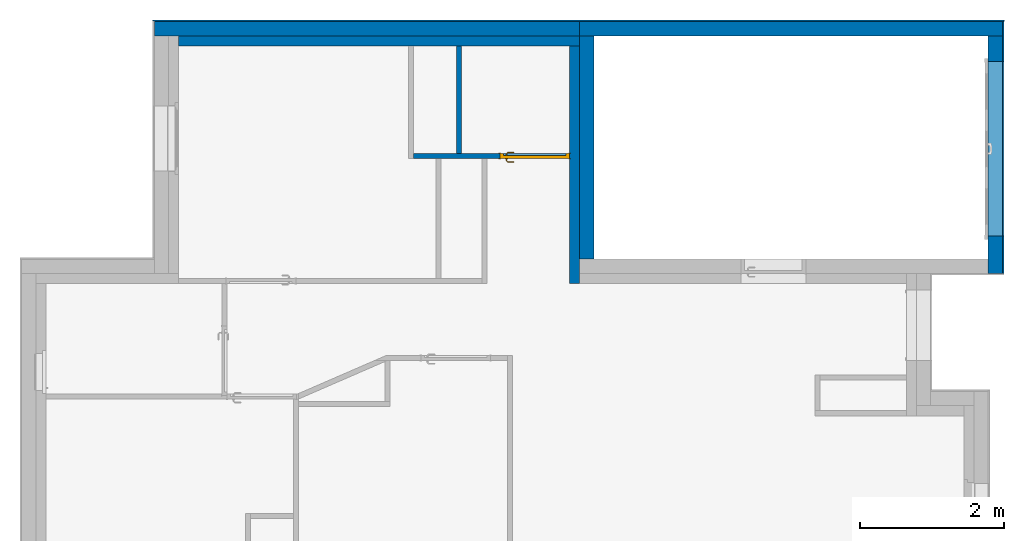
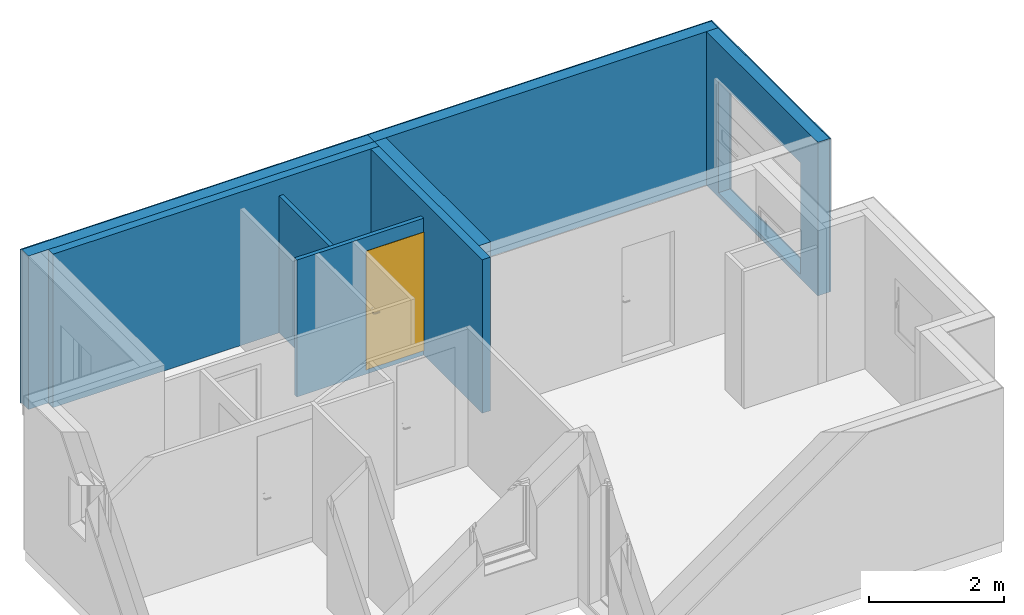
"""IFC2X3 building model written with IfcOpenShell, lengths in centimetres."""

from ifc_helpers import new_model, entity, si_unit, converted_unit, derived_unit, direction, frame, frame_2d, origin, place, context, subcontext, project, spatial, rectangle, extrude, faceted_brep, source, transform, mapped, material, material_list, layer, layer_set, layer_usage, type_object, type_shapes, element, fill, save


model = new_model("IFC2X3")

# Units and contexts
model_context = context("Model", 3, precision=0.001, world=origin(), true_north=direction((6.123031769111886e-17, 1.0)))
body_context = subcontext(model_context, "Body", "Model", "MODEL_VIEW")
ifc_project = project(units=[si_unit("LENGTHUNIT", "METRE", prefix="CENTI"), si_unit("AREAUNIT", "SQUARE_METRE"), si_unit("VOLUMEUNIT", "CUBIC_METRE"), converted_unit("PLANEANGLEUNIT", "DEGREE", entity("IfcRatioMeasure", 0.017453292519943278), si_unit("PLANEANGLEUNIT", "RADIAN"), dimensions=[0, 0, 0, 0, 0, 0, 0]), si_unit("MASSUNIT", "GRAM", prefix="KILO"), derived_unit("MASSDENSITYUNIT", [(si_unit("MASSUNIT", "GRAM", prefix="KILO"), 1), (si_unit("LENGTHUNIT", "METRE"), -3)]), derived_unit("MOMENTOFINERTIAUNIT", [(si_unit("LENGTHUNIT", "METRE"), 4)]), si_unit("TIMEUNIT", "SECOND"), si_unit("FREQUENCYUNIT", "HERTZ"), si_unit("THERMODYNAMICTEMPERATUREUNIT", "DEGREE_CELSIUS"), derived_unit("THERMALTRANSMITTANCEUNIT", [(si_unit("MASSUNIT", "GRAM", prefix="KILO"), 1), (si_unit("THERMODYNAMICTEMPERATUREUNIT", "KELVIN"), -1), (si_unit("TIMEUNIT", "SECOND"), -3)]), derived_unit("VOLUMETRICFLOWRATEUNIT", [(si_unit("LENGTHUNIT", "METRE"), 3), (si_unit("TIMEUNIT", "SECOND"), -1)]), derived_unit("MASSFLOWRATEUNIT", [(si_unit("MASSUNIT", "GRAM", prefix="KILO"), 1), (si_unit("TIMEUNIT", "SECOND"), -1)]), derived_unit("ROTATIONALFREQUENCYUNIT", [(si_unit("TIMEUNIT", "SECOND"), -1)]), si_unit("ELECTRICCURRENTUNIT", "AMPERE"), si_unit("ELECTRICVOLTAGEUNIT", "VOLT"), si_unit("POWERUNIT", "WATT"), si_unit("FORCEUNIT", "NEWTON", prefix="KILO"), si_unit("ILLUMINANCEUNIT", "LUX"), si_unit("LUMINOUSFLUXUNIT", "LUMEN"), si_unit("LUMINOUSINTENSITYUNIT", "CANDELA"), derived_unit("USERDEFINED", [(si_unit("MASSUNIT", "GRAM", prefix="KILO"), -1), (si_unit("LENGTHUNIT", "METRE"), -2), (si_unit("TIMEUNIT", "SECOND"), 3), (si_unit("LUMINOUSFLUXUNIT", "LUMEN"), 1)]), derived_unit("SOUNDPOWERUNIT", [(si_unit("MASSUNIT", "GRAM", prefix="KILO"), 1), (si_unit("LENGTHUNIT", "METRE"), 2), (si_unit("TIMEUNIT", "SECOND"), -3)]), derived_unit("SOUNDPRESSUREUNIT", [(si_unit("MASSUNIT", "GRAM", prefix="KILO"), 1), (si_unit("LENGTHUNIT", "METRE"), -1), (si_unit("TIMEUNIT", "SECOND"), -2)]), derived_unit("LINEARVELOCITYUNIT", [(si_unit("LENGTHUNIT", "METRE"), 1), (si_unit("TIMEUNIT", "SECOND"), -1)]), si_unit("PRESSUREUNIT", "PASCAL"), derived_unit("USERDEFINED", [(si_unit("LENGTHUNIT", "METRE"), -2), (si_unit("MASSUNIT", "GRAM", prefix="KILO"), 1), (si_unit("TIMEUNIT", "SECOND"), -2)]), derived_unit("LINEARFORCEUNIT", [(si_unit("MASSUNIT", "GRAM", prefix="KILO"), 1), (si_unit("LENGTHUNIT", "METRE"), 1), (si_unit("TIMEUNIT", "SECOND"), -2), (si_unit("LENGTHUNIT", "METRE"), -1)]), derived_unit("PLANARFORCEUNIT", [(si_unit("MASSUNIT", "GRAM", prefix="KILO"), 1), (si_unit("LENGTHUNIT", "METRE"), 1), (si_unit("TIMEUNIT", "SECOND"), -2), (si_unit("LENGTHUNIT", "METRE"), -2)])], contexts=[model_context])

# Site, building, storey
site_placement = place(None, origin())
site = spatial("IfcSite", under=ifc_project, at=site_placement, Name="Default", CompositionType="ELEMENT")
building_placement = place(site_placement, origin())
building = spatial("IfcBuilding", under=site, at=building_placement, CompositionType="ELEMENT")
storey_1_placement = place(building_placement, frame((0.0, 0.0, -8.0)))
storey_1 = spatial("IfcBuildingStorey", under=building, at=storey_1_placement, Name="-0.08_Dessus plancher", CompositionType="ELEMENT", Elevation=-8.000000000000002)

# Wall
ifc_material_1 = material(Name="Maçonnerie - Béton")
ifc_layer_1 = layer(ifc_material_1, 20.0)
ifc_layer_set_1 = layer_set([ifc_layer_1], Name="Mur de base:Mur 20")
ifc_layer_usage_1 = layer_usage(ifc_layer_set_1, "AXIS2", "POSITIVE", -10.0)
wall_type_1 = type_object("IfcWallType", Name="Mur de base:Mur 20", PredefinedType="STANDARD", material=ifc_layer_set_1)
wall_1_placement = place(storey_1_placement, frame((-265.82536305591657, 921.6042960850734, 0.0), z_axis=(0.0, 0.0, 1.0), x_axis=(-1.0, 0.0, 0.0)))
element("IfcWallStandardCase", 1, at=wall_1_placement, inside=storey_1, type_object=wall_type_1, material=ifc_layer_usage_1, Name="Mur de base:Mur 20", ObjectType="Mur de base:Mur 20", context=body_context, shape_type="SweptSolid", body=[
    extrude(rectangle(XDim=588.9999999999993, YDim=20.0, at=frame_2d((294.49999999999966, -1.509903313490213e-14), x_axis=(-1.0, 0.0))), origin(), (0.0, 0.0, 1.0), 278.00000000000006),
])

# Wall, opening
ifc_layer_usage_2 = layer_usage(ifc_layer_set_1, "AXIS2", "NEGATIVE", 10.0)
wall_2_placement = place(storey_1_placement, frame((-275.8253630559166, 911.6042960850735, 0.0), z_axis=(0.0, 0.0, 1.0), x_axis=(0.0, -1.0, 0.0)))
wall_2 = element("IfcWallStandardCase", 2, at=wall_2_placement, inside=storey_1, type_object=wall_type_1, material=ifc_layer_usage_2, Name="Mur de base:Mur 20", ObjectType="Mur de base:Mur 20", context=body_context, shape_type="SweptSolid", body=[
    extrude(rectangle(XDim=331.0000000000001, YDim=20.0, at=frame_2d((165.5000000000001, 0.0), x_axis=(-1.0, 0.0))), origin(), (0.0, 0.0, 1.0), 278.00000000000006),
])
opening_1_placement = place(wall_2_placement, frame((911.6042960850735, 275.8253630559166, 8.0), z_axis=(0.0, 0.0, 1.0), x_axis=(0.0, 1.0, 0.0)))
element("IfcOpeningElement", 3, at=opening_1_placement, cuts=wall_2, Name="Mur de base:Mur 20", ObjectType="Opening", context=body_context, shape_type="SweptSolid", body=[
    extrude(rectangle(XDim=201.5000000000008, YDim=242.9999999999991, at=frame_2d((-1.0658141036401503e-13, 0.0), x_axis=(0.0, 1.0))), frame((-315.8253630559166, 754.1042960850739, 100.7500000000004), z_axis=(1.0, 0.0, 0.0), x_axis=(0.0, -1.0, 0.0)), (0.0, 0.0, 1.0), 80.00000000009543),
])

ifc_layer_usage_3 = layer_usage(ifc_layer_set_1, "AXIS2", "POSITIVE", -10.0)
wall_3_placement = place(storey_1_placement, frame((-844.8253630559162, 600.6042960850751, 0.0), z_axis=(0.0, 0.0, 1.0), x_axis=(0.0, 1.0, 0.0)))
wall_3 = element("IfcWallStandardCase", 4, at=wall_3_placement, inside=storey_1, type_object=wall_type_1, material=ifc_layer_usage_3, Name="Mur de base:Mur 20", ObjectType="Mur de base:Mur 20", context=body_context, shape_type="SweptSolid", body=[
    extrude(rectangle(XDim=311.0000000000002, YDim=20.0, at=frame_2d((155.50000000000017, -1.9539925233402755e-14), x_axis=(-1.0, 0.0))), origin(), (0.0, 0.0, 1.0), 278.00000000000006),
])
opening_2_placement = place(wall_3_placement, origin())
element("IfcOpeningElement", 5, at=opening_2_placement, cuts=wall_3, Name="Mur de base:Mur 20", ObjectType="Opening", context=body_context, shape_type="SweptSolid", body=[
    extrude(rectangle(XDim=213.50000000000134, YDim=7.000000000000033, at=frame_2d((5.417888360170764e-14, 1.4210854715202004e-14), x_axis=(0.0, 1.0))), frame((143.5000000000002, 24.0, 114.74999999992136), z_axis=(0.0, 1.0, 0.0), x_axis=(1.0, 0.0, 0.0)), (0.0, 0.0, 1.0), 96.9999999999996),
])

# Walls
ifc_layer_usage_4 = layer_usage(ifc_layer_set_1, "AXIS2", "POSITIVE", -10.0)
wall_4_placement = place(storey_1_placement, frame((-854.8253630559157, 921.6042960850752, 0.0), z_axis=(0.0, 0.0, 1.0), x_axis=(-1.0, 0.0, 0.0)))
element("IfcWallStandardCase", 6, at=wall_4_placement, inside=storey_1, type_object=wall_type_1, material=ifc_layer_usage_4, Name="Mur de base:Mur 20", ObjectType="Mur de base:Mur 20", context=body_context, shape_type="SweptSolid", body=[
    extrude(rectangle(XDim=592.0000000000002, YDim=20.0, at=frame_2d((296.00000000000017, -2.930988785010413e-14), x_axis=(-1.0, 0.0))), origin(), (0.0, 0.0, 1.0), 278.00000000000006),
])
ifc_material_2 = material(Name="Maçonnerie - Enduit")
ifc_layer_2 = layer(ifc_material_2, 2.0)
ifc_layer_set_2 = layer_set([ifc_layer_2], Name="Mur de base:Enduit 2")
ifc_layer_usage_5 = layer_usage(ifc_layer_set_2, "AXIS2", "POSITIVE", -1.0)
wall_type_2 = type_object("IfcWallType", Name="Mur de base:Enduit 2", PredefinedType="STANDARD", material=ifc_layer_set_2)
wall_5_placement = place(storey_1_placement, frame((-263.82536305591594, 932.6042960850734, 0.0), z_axis=(0.0, 0.0, 1.0), x_axis=(-1.0, 0.0, 0.0)))
element("IfcWallStandardCase", 7, at=wall_5_placement, inside=storey_1, type_object=wall_type_2, material=ifc_layer_usage_5, Name="Mur de base:Enduit 2", ObjectType="Mur de base:Enduit 2", context=body_context, shape_type="SweptSolid", body=[
    extrude(rectangle(XDim=1184.9999999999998, YDim=1.9999999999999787, at=frame_2d((592.4999999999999, 6.494804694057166e-15), x_axis=(-1.0, 0.0))), origin(), (0.0, 0.0, 1.0), 278.00000000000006),
])

# Wall, opening
ifc_layer_usage_6 = layer_usage(ifc_layer_set_2, "AXIS2", "POSITIVE", -1.0)
wall_6_placement = place(storey_1_placement, frame((-264.82536305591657, 580.6042960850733, 0.0), z_axis=(0.0, 0.0, 1.0), x_axis=(0.0, 1.0, 0.0)))
wall_6 = element("IfcWallStandardCase", 8, at=wall_6_placement, inside=storey_1, type_object=wall_type_2, material=ifc_layer_usage_6, Name="Mur de base:Enduit 2", ObjectType="Mur de base:Enduit 2", context=body_context, shape_type="SweptSolid", body=[
    extrude(rectangle(XDim=351.0000000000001, YDim=1.9999999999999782, at=frame_2d((175.50000000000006, -1.6653345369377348e-15), x_axis=(-1.0, 0.0))), origin(), (0.0, 0.0, 1.0), 278.00000000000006),
])
opening_3_placement = place(wall_6_placement, origin())
element("IfcOpeningElement", 9, at=opening_3_placement, cuts=wall_6, Name="Mur de base:Enduit 2", ObjectType="Opening", context=body_context, shape_type="SweptSolid", body=[
    extrude(rectangle(XDim=201.5000000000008, YDim=242.99999999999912, at=frame_2d((0.0, 0.0), x_axis=(0.0, 1.0))), frame((173.50000000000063, -29.0, 108.74999999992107), z_axis=(0.0, 1.0, 0.0), x_axis=(1.0, 0.0, 0.0)), (0.0, 0.0, 1.0), 80.0000000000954),
])

# Wall
ifc_material_3 = material(Name="Isolant rigide")
ifc_layer_3 = layer(ifc_material_3, 14.0)
ifc_layer_set_3 = layer_set([ifc_layer_3], Name="Mur de base:Doublage 14")
ifc_layer_usage_7 = layer_usage(ifc_layer_set_3, "AXIS2", "NEGATIVE", 7.0)
wall_type_3 = type_object("IfcWallType", Name="Mur de base:Doublage 14", PredefinedType="STANDARD", material=ifc_layer_set_3)
wall_7_placement = place(storey_1_placement, frame((-1412.825363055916, 904.6042960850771, 0.0)))
element("IfcWallStandardCase", 10, at=wall_7_placement, inside=storey_1, type_object=wall_type_3, material=ifc_layer_usage_7, Name="Mur de base:Doublage 14", ObjectType="Mur de base:Doublage 14", context=body_context, shape_type="SweptSolid", body=[
    extrude(rectangle(XDim=558.0000000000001, YDim=14.000000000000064, at=frame_2d((279.00000000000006, -2.2648549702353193e-14), x_axis=(-1.0, 0.0))), origin(), (0.0, 0.0, 1.0), 278.00000000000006),
])

# Wall, opening
ifc_layer_usage_8 = layer_usage(ifc_layer_set_3, "AXIS2", "NEGATIVE", 7.0)
wall_8_placement = place(storey_1_placement, frame((-861.8253630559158, 897.6042960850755, 0.0), z_axis=(0.0, 0.0, 1.0), x_axis=(0.0, -1.0, 0.0)))
wall_8 = element("IfcWallStandardCase", 11, at=wall_8_placement, inside=storey_1, type_object=wall_type_3, material=ifc_layer_usage_8, Name="Mur de base:Doublage 14", ObjectType="Mur de base:Doublage 14", context=body_context, shape_type="SweptSolid", body=[
    extrude(rectangle(XDim=331.0000000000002, YDim=13.999999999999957, at=frame_2d((165.50000000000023, 5.417888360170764e-14), x_axis=(-1.0, 0.0))), origin(), (0.0, 0.0, 1.0), 278.00000000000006),
])
opening_4_placement = place(wall_8_placement, origin())
element("IfcOpeningElement", 12, at=opening_4_placement, cuts=wall_8, Name="Mur de base:Doublage 14", ObjectType="Opening", context=body_context, shape_type="SweptSolid", body=[
    extrude(rectangle(XDim=213.50000000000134, YDim=7.000000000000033, at=frame_2d((5.417888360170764e-14, 0.0), x_axis=(0.0, 1.0))), frame((153.5000000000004, -104.0, 114.74999999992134), z_axis=(0.0, 1.0, 0.0), x_axis=(-1.0, 0.0, 0.0)), (0.0, 0.0, 1.0), 96.9999999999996),
])

ifc_material_4 = material(Name="Mur par défaut")
ifc_layer_4 = layer(ifc_material_4, 7.0)
ifc_layer_set_4 = layer_set([ifc_layer_4], Name="Mur de base:Cloison 7cm")
ifc_layer_usage_9 = layer_usage(ifc_layer_set_4, "AXIS2", "NEGATIVE", 3.4999999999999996)
wall_type_4 = type_object("IfcWallType", Name="Mur de base:Cloison 7cm", PredefinedType="STANDARD", material=ifc_layer_set_4)
wall_9_placement = place(storey_1_placement, frame((-1085.825363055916, 744.1042960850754, 0.0)))
wall_9 = element("IfcWallStandardCase", 13, at=wall_9_placement, inside=storey_1, type_object=wall_type_4, material=ifc_layer_usage_9, Name="Mur de base:Cloison 7cm", ObjectType="Mur de base:Cloison 7cm", context=body_context, shape_type="SweptSolid", body=[
    extrude(rectangle(XDim=217.00000000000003, YDim=7.000000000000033, at=frame_2d((108.50000000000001, -5.417888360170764e-14), x_axis=(-1.0, 0.0))), origin(), (0.0, 0.0, 1.0), 248.00000000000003),
])
opening_5_placement = place(wall_9_placement, frame((217.0, 3.4999999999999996, 8.0)))
opening_5 = element("IfcOpeningElement", 14, at=opening_5_placement, cuts=wall_9, Name="Int. Simple:PP (0.90m x 2.10m):1", ObjectType="Opening", context=body_context, shape_type="SweptSolid", body=[
    extrude(rectangle(XDim=213.50000000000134, YDim=96.99999999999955, at=frame_2d((106.75000000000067, 48.49999999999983), x_axis=(1.0, 0.0))), frame((0.0, 0.0, 0.0), z_axis=(0.0, -1.0, 0.0), x_axis=(0.0, 0.0, 1.0)), (0.0, 0.0, 1.0), 6.999999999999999),
])

# Storey
storey_2_placement = place(building_placement, origin())
storey_2 = spatial("IfcBuildingStorey", under=building, at=storey_2_placement, Name="1_Rez-de-chaussée", CompositionType="ELEMENT", Elevation=-7.93413063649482e-11)

# Door
ifc_material_5 = material(Name="Finition Peinture - Blanc satiné")
ifc_material_6 = material(Name="Bois - Panneau de porte")
ifc_material_7 = material(Name="Bois - Cadre de porte")
ifc_material_list_1 = material_list([ifc_material_5, ifc_material_5, ifc_material_5, ifc_material_5, ifc_material_6, ifc_material_7, ifc_material_7, ifc_material_7])
ifc_material_list_2 = material_list([ifc_material_5, ifc_material_5, ifc_material_5, ifc_material_5, ifc_material_6, ifc_material_7, ifc_material_7, ifc_material_7])
door_style = type_object("IfcDoorStyle", Name="Int. Simple:PP (0.90m x 2.10m)", ConstructionType="NOTDEFINED", OperationType="NOTDEFINED", ParameterTakesPrecedence=False, Sizeable=False, material=ifc_material_list_2)
shared_shape = source(origin(), body_context, "Body", "Brep", [
    faceted_brep([(10.53527618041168, -0.5000000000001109, 86.6003983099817), (11.500000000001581, -0.5000000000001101, 87.0), (11.50000000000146, -0.5000000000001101, 108.0), (10.535276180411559, -0.5000000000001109, 108.39960169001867), (9.500000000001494, -0.5000000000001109, 108.5358983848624), (8.464723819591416, -0.5000000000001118, 108.39960169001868), (7.500000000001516, -0.5000000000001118, 108.0), (7.500000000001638, -0.5000000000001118, 87.0), (8.464723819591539, -0.5000000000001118, 86.6003983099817), (9.50000000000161, -0.5000000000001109, 86.46410161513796), (10.535276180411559, 0.0, 108.39960169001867), (11.500000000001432, 0.0, 108.0), (11.500000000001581, 0.0, 87.0), (10.53527618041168, 0.0, 86.6003983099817), (9.50000000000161, 0.0, 86.46410161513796), (8.464723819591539, 0.0, 86.6003983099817), (7.5000000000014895, 0.0, 87.0), (7.500000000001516, 0.0, 108.0), (8.464723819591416, 0.0, 108.39960169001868), (9.500000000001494, 0.0, 108.5358983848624)], [[[0, 1, 2, 3, 4, 5, 6, 7, 8, 9]], [[10, 11, 12, 13, 14, 15, 16, 17, 18, 19]], [[16, 15, 8, 7]], [[8, 15, 14, 9]], [[14, 13, 0, 9]], [[13, 12, 1, 0]], [[2, 1, 12, 11]], [[11, 10, 3, 2]], [[3, 10, 19, 4]], [[19, 18, 5, 4]], [[18, 17, 6, 5]], [[7, 6, 17, 16]]]),
    faceted_brep([(10.535276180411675, 4.0, 86.6003983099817), (11.500000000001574, 4.0, 87.0), (11.500000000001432, 4.0, 108.0), (10.535276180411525, 4.0, 108.39960169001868), (9.50000000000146, 4.0, 108.5358983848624), (8.464723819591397, 4.0, 108.39960169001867), (7.5000000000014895, 4.0, 108.0), (7.500000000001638, 4.0, 87.0), (8.464723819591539, 4.0, 86.60039830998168), (9.500000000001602, 4.0, 86.46410161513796), (10.535276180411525, 4.499999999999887, 108.39960169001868), (11.500000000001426, 4.499999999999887, 108.0), (11.500000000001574, 4.499999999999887, 87.0), (10.535276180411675, 4.499999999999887, 86.6003983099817), (9.500000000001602, 4.499999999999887, 86.46410161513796), (8.464723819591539, 4.499999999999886, 86.60039830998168), (7.500000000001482, 4.499999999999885, 87.0), (7.5000000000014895, 4.499999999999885, 108.0), (8.464723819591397, 4.499999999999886, 108.39960169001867), (9.50000000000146, 4.499999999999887, 108.5358983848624)], [[[0, 1, 2, 3, 4, 5, 6, 7, 8, 9]], [[10, 11, 12, 13, 14, 15, 16, 17, 18, 19]], [[11, 10, 3, 2]], [[3, 10, 19, 4]], [[19, 18, 5, 4]], [[18, 17, 6, 5]], [[7, 6, 17, 16]], [[16, 15, 8, 7]], [[8, 15, 14, 9]], [[14, 13, 0, 9]], [[13, 12, 1, 0]], [[2, 1, 12, 11]]]),
    faceted_brep([(9.297470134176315, -0.5000000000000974, 100.77804408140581), (9.702529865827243, -0.5000000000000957, 100.77804408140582), (10.100000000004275, -0.500000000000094, 100.6999999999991), (10.10000000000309, -0.500000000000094, 99.30000000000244), (9.702529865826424, -0.5000000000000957, 99.22195591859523), (9.297470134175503, -0.5000000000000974, 99.221955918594), (8.89999999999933, -0.500000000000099, 99.29999999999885), (8.899999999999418, -0.500000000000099, 100.69999999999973), (8.899999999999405, -3.2650950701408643, 100.69999999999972), (9.2974701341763, -3.100457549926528, 100.77804408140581), (10.90235851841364, -4.7053459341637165, 100.77804408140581), (11.07013975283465, -4.300286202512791, 100.77804408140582), (9.702529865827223, -2.9326763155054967, 100.77804408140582), (10.100000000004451, -2.7680387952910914, 100.69999999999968), (10.100000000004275, -2.7680387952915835, 99.30000000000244), (9.702529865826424, -2.932676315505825, 99.22195591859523), (11.070139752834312, -4.3002862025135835, 99.22195591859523), (10.902358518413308, -4.705345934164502, 99.221955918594), (9.297470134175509, -3.100457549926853, 99.221955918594), (8.899999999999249, -3.2650950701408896, 99.29999999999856), (10.737720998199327, -5.102816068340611, 100.69999999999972), (11.234777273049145, -3.9028160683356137, 100.69999999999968), (11.234777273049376, -3.902816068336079, 99.30000000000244), (10.737720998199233, -5.102816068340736, 99.29999999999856), (19.501864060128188, -5.102816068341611, 99.2999999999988), (19.501864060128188, -4.705345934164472, 99.22195591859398), (19.501864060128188, -4.300286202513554, 99.2219559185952), (19.501864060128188, -3.9028160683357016, 99.30000000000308), (19.501864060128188, -3.9028160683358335, 100.69999999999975), (19.501864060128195, -4.300286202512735, 100.7780440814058), (19.501864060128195, -4.7053459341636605, 100.77804408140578), (19.501864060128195, -5.102816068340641, 100.69999999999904), (14.730769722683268, -5.10281606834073, 100.69999999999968), (15.286001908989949, -4.502816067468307, 100.7878686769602), (15.368320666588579, -3.902816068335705, 100.6999999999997), (15.368320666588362, -3.902816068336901, 99.30000000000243), (15.286001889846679, -4.5028160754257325, 99.21213132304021), (14.730770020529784, -5.102816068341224, 99.2999999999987)], [[[0, 1, 2, 3, 4, 5, 6, 7]], [[8, 9, 0, 7]], [[9, 10, 11, 12, 1, 0]], [[12, 13, 2, 1]], [[3, 2, 13, 14]], [[14, 15, 4, 3]], [[15, 16, 17, 18, 5, 4]], [[18, 19, 6, 5]], [[7, 6, 19, 8]], [[20, 10, 9, 8]], [[11, 21, 13, 12]], [[14, 13, 21, 22]], [[22, 16, 15, 14]], [[17, 23, 19, 18]], [[8, 19, 23, 20]], [[24, 25, 26, 27, 28, 29, 30, 31]], [[32, 30, 33]], [[31, 30, 32]], [[10, 20, 32]], [[33, 34, 11]], [[21, 11, 34]], [[34, 29, 28]], [[30, 29, 33]], [[29, 34, 33]], [[10, 32, 33]], [[10, 33, 11]], [[22, 21, 34, 28, 27, 35]], [[35, 26, 36]], [[37, 36, 25]], [[22, 35, 16]], [[35, 27, 26]], [[24, 37, 25]], [[23, 17, 37]], [[37, 17, 36]], [[17, 16, 36]], [[16, 35, 36]], [[25, 36, 26]], [[20, 23, 37, 24, 31, 32]]]),
    faceted_brep([(9.29747013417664, 4.4999999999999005, 100.77804408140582), (8.899999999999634, 4.499999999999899, 100.69999999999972), (8.899999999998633, 4.499999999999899, 99.29999999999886), (9.297470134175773, 4.4999999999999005, 99.22195591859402), (9.702529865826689, 4.499999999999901, 99.22195591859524), (10.100000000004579, 4.499999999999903, 99.30000000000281), (10.100000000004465, 4.499999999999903, 100.69999999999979), (9.702529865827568, 4.499999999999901, 100.77804408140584), (10.100000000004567, 6.748520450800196, 99.30000000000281), (10.100000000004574, 6.748520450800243, 100.69999999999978), (9.702529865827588, 6.913157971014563, 100.77804408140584), (11.083890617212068, 8.294518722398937, 100.77804408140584), (10.916109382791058, 8.699578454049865, 100.77804408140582), (9.29747013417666, 7.080939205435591, 100.77804408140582), (8.899999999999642, 7.245576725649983, 100.69999999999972), (8.899999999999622, 7.245576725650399, 99.29999999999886), (9.297470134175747, 7.080939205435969, 99.22195591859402), (10.916109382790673, 8.699578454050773, 99.22195591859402), (11.083890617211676, 8.294518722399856, 99.22195591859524), (9.702529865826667, 6.913157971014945, 99.22195591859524), (11.248528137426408, 7.897048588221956, 99.30000000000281), (11.248528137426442, 7.897048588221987, 100.69999999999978), (10.751471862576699, 9.097048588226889, 100.69999999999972), (10.751471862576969, 9.097048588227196, 99.29999999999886), (19.504578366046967, 7.897048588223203, 99.30000000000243), (19.504578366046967, 8.294518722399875, 99.22195591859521), (19.504578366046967, 8.699578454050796, 99.22195591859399), (19.504578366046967, 9.097048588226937, 99.29999999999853), (19.504578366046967, 9.097048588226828, 100.69999999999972), (19.504578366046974, 8.699578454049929, 100.7780440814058), (19.504578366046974, 8.294518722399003, 100.77804408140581), (19.504578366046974, 7.897048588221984, 100.69999999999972), (15.376552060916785, 7.897048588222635, 99.3000000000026), (15.37655325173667, 7.897048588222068, 100.69999999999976), (15.294234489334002, 8.49704858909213, 100.78786867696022), (14.74452057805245, 9.097048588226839, 100.69999999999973), (14.744520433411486, 9.097048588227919, 99.29999999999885), (15.294234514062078, 8.497048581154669, 99.21213132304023)], [[[0, 1, 2, 3, 4, 5, 6, 7]], [[6, 5, 8, 9]], [[9, 10, 7, 6]], [[10, 11, 12, 13, 0, 7]], [[13, 14, 1, 0]], [[2, 1, 14, 15]], [[15, 16, 3, 2]], [[16, 17, 18, 19, 4, 3]], [[19, 8, 5, 4]], [[9, 8, 20, 21]], [[21, 11, 10, 9]], [[12, 22, 14, 13]], [[15, 14, 22, 23]], [[23, 17, 16, 15]], [[18, 20, 8, 19]], [[24, 25, 26, 27, 28, 29, 30, 31]], [[21, 20, 32, 24, 31, 33]], [[33, 30, 34]], [[35, 34, 29]], [[21, 33, 11]], [[33, 31, 30]], [[28, 35, 29]], [[22, 12, 35]], [[35, 12, 34]], [[12, 11, 34]], [[11, 33, 34]], [[29, 34, 30]], [[22, 35, 28, 27, 36, 23]], [[36, 26, 37]], [[27, 26, 36]], [[17, 23, 36]], [[37, 32, 18]], [[20, 18, 32]], [[32, 25, 24]], [[26, 25, 37]], [[25, 32, 37]], [[17, 36, 37]], [[17, 37, 18]]]),
    faceted_brep([(3.5000000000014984, 4.0, 210.0), (93.5000000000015, 4.0, 210.0), (93.5000000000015, 4.0, 0.0), (3.5000000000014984, 4.0, 0.0), (3.5000000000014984, 0.0, 210.0), (3.5000000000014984, 0.0, 0.0), (93.5000000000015, 0.0, 0.0), (93.5000000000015, 0.0, 210.0)], [[[0, 1, 2, 3]], [[4, 5, 6, 7]], [[1, 0, 4, 7]], [[2, 1, 7, 6]], [[3, 2, 6, 5]], [[0, 3, 5, 4]]]),
    faceted_brep([(0.0, 0.0, 0.0), (0.0, 7.0, 0.0), (5.0, 7.0, 0.0), (5.0, 4.0, 0.0), (3.4999999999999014, 4.0, 0.0), (3.4999999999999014, 0.0, 0.0), (0.0, 0.0, 213.50000000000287), (0.0, 7.0, 213.50000000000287), (97.0, 7.0, 213.50000000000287), (97.0, 7.0, 0.0), (92.0, 7.0, 0.0), (92.0, 7.0, 208.50000000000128), (5.0, 7.0, 208.50000000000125), (5.0, 4.0, 208.50000000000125), (92.0, 4.0, 208.50000000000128), (92.0, 4.0, 0.0), (93.49999999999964, 4.0, 0.0), (93.49999999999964, 4.0, 210.0), (3.4999999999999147, 4.0, 210.0), (3.4999999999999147, 0.0, 210.0), (93.49999999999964, 0.0, 210.0), (93.49999999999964, 0.0, 0.0), (97.0, 0.0, 0.0), (97.0, 0.0, 213.50000000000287)], [[[0, 1, 2, 3, 4, 5]], [[1, 0, 6, 7]], [[2, 1, 7, 8, 9, 10, 11, 12]], [[3, 2, 12, 13]], [[4, 3, 13, 14, 15, 16, 17, 18]], [[5, 4, 18, 19]], [[0, 5, 19, 20, 21, 22, 23, 6]], [[8, 23, 22, 9]], [[22, 21, 16, 15, 10, 9]], [[14, 11, 10, 15]], [[20, 17, 16, 21]], [[7, 6, 23, 8]], [[13, 12, 11, 14]], [[19, 18, 17, 20]]]),
    faceted_brep([(1.4999999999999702, 7.0, 0.0), (-1.4999999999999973, 7.0, 0.0), (-1.4999999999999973, 7.499999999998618, 0.0), (1.4999999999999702, 7.499999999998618, 0.0), (1.4999999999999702, 7.0, 212.0), (95.49999999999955, 7.0, 212.0), (95.49999999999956, 7.0, 0.0), (98.49999999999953, 7.0, 0.0), (98.49999999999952, 7.0, 215.0), (-1.4999999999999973, 7.0, 215.0), (-1.4999999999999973, 7.499999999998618, 215.0), (98.49999999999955, 7.499999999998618, 215.0), (98.49999999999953, 7.499999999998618, 0.0), (95.49999999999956, 7.499999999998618, 0.0), (95.49999999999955, 7.499999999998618, 212.0), (1.4999999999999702, 7.499999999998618, 212.0)], [[[0, 1, 2, 3]], [[1, 0, 4, 5, 6, 7, 8, 9]], [[2, 1, 9, 10]], [[3, 2, 10, 11, 12, 13, 14, 15]], [[0, 3, 15, 4]], [[6, 13, 12, 7]], [[5, 14, 13, 6]], [[11, 8, 7, 12]], [[10, 9, 8, 11]], [[4, 15, 14, 5]]]),
    faceted_brep([(-1.4999999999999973, -0.4999999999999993, 0.0), (1.4999999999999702, -0.4999999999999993, 0.0), (1.4999999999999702, -0.4999999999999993, 212.0), (95.49999999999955, -0.4999999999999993, 212.0), (95.49999999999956, -0.4999999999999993, 0.0), (98.49999999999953, -0.4999999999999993, 0.0), (98.49999999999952, -0.4999999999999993, 215.0), (-1.4999999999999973, -0.4999999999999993, 215.0), (-1.4999999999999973, 0.0, 0.0), (-1.4999999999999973, 0.0, 215.0), (1.4999999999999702, 0.0, 0.0), (98.49999999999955, 0.0, 215.0), (98.49999999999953, 0.0, 0.0), (95.49999999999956, 0.0, 0.0), (95.49999999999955, 0.0, 212.0), (1.4999999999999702, 0.0, 212.0)], [[[0, 1, 2, 3, 4, 5, 6, 7]], [[8, 0, 7, 9]], [[10, 8, 9, 11, 12, 13, 14, 15]], [[1, 10, 15, 2]], [[3, 14, 13, 4]], [[11, 6, 5, 12]], [[9, 7, 6, 11]], [[2, 15, 14, 3]], [[4, 13, 12, 5]], [[1, 0, 8, 10]]]),
])
type_shapes(door_style, [shared_shape])
door_placement = place(opening_5_placement, frame((-97.0, -7.0, 0.0)))
door = element("IfcDoor", 15, at=door_placement, inside=storey_2, type_object=door_style, material=ifc_material_list_1, Name="Int. Simple:PP (0.90m x 2.10m)", ObjectType="Int. Simple:PP (0.90m x 2.10m)", OverallHeight=213.50000000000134, OverallWidth=96.9999999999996, context=body_context, shape_type="MappedRepresentation", body=[
    mapped(shared_shape, transform((0.0, 0.0, 0.0), scale=1.0)),
])

fill(opening_5, door)

# Wall
ifc_layer_usage_10 = layer_usage(ifc_layer_set_4, "AXIS2", "NEGATIVE", 3.4999999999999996)
wall_10_placement = place(storey_1_placement, frame((-1022.3253630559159, 897.6042960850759, 0.0), z_axis=(0.0, 0.0, 1.0), x_axis=(0.0, -1.0, 0.0)))
element("IfcWallStandardCase", 16, at=wall_10_placement, inside=storey_1, type_object=wall_type_4, material=ifc_layer_usage_10, Name="Mur de base:Cloison 7cm", ObjectType="Mur de base:Cloison 7cm", context=body_context, shape_type="SweptSolid", body=[
    extrude(rectangle(XDim=150.00000000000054, YDim=7.000000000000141, at=frame_2d((75.00000000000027, 1.6653345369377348e-14), x_axis=(-1.0, 0.0))), origin(), (0.0, 0.0, 1.0), 248.00000000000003),
])

save(model, "model.ifc")
